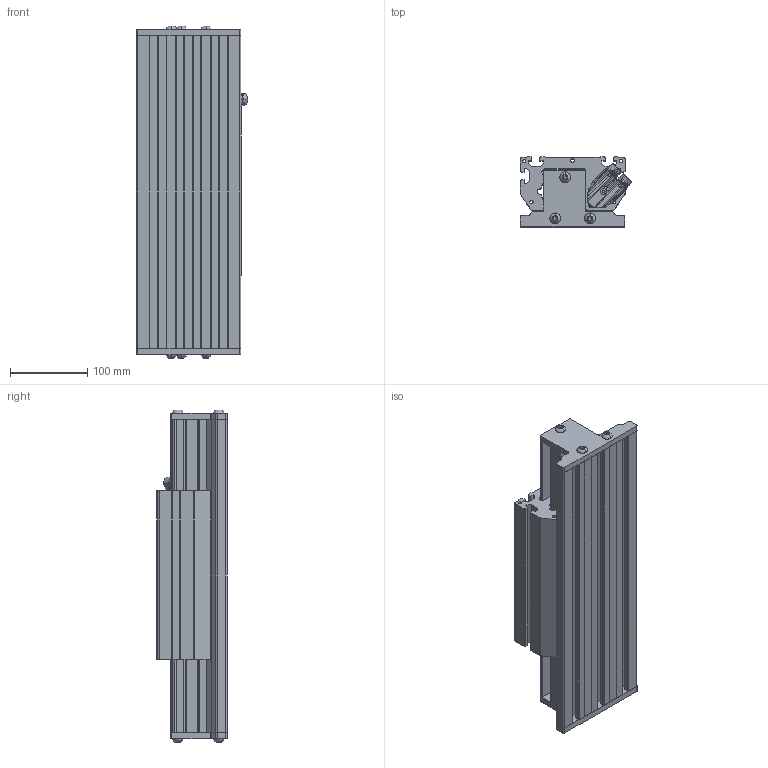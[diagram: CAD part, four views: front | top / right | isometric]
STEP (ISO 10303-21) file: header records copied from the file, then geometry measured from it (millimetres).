
FILE_DESCRIPTION (( 'STEP AP214' ), '1' );
FILE_NAME ('SINADRIVES Linear motor stage MLL20200XS-XX-1-0-ST-00-00420.STEP', '2015-07-06T08:57:51', ( 'Tecnico' ), ( '' ), 'SwSTEP 2.0', 'SolidWorks 2009', '' );
FILE_SCHEMA (( 'AUTOMOTIVE_DESIGN' ));
Length unit declared in the file: millimetre
Products named in the file (7): SINADRIVES PROFILE MLL2XXXX-0404; SINADRIVES CARRIAGE MLL20200XS-1; CARRIAGE MLL20200; Connector power+signal Y-tec 45; SINADRIVES ENDBLOCK MLL2; SINADRIVES ENDBLOCK MLL2-2; SINADRIVES Linear motor stage MLL20200XS-XX-1-0-ST-00-00420
Assembly tree (6 placements, depth 3):
  SINADRIVES Linear motor stage MLL20200XS-XX-1-0-ST-00-00420
    SINADRIVES ENDBLOCK MLL2-2
    SINADRIVES ENDBLOCK MLL2
    SINADRIVES CARRIAGE MLL20200XS-1
      CARRIAGE MLL20200
      Connector power+signal Y-tec 45
    SINADRIVES PROFILE MLL2XXXX-0404
Bounding box: 144.43 x 91 x 428.8 mm (x, y, z)
Volume: 2839137.8 mm3; surface area: 512537.4 mm2
Topology: 2 solids, 42 shells, 950 faces, 2640 edges, 1730 vertices
Faces by surface type: plane 445, cylinder 302, bspline 79, cone 70, torus 42, sphere 12
Entity records: 40587 total; most frequent: CARTESIAN_POINT 8656, ORIENTED_EDGE 5024, DIRECTION 4947, EDGE_CURVE 2622, AXIS2_PLACEMENT_3D 1781, VERTEX_POINT 1730, VECTOR 1385, LINE 1385
